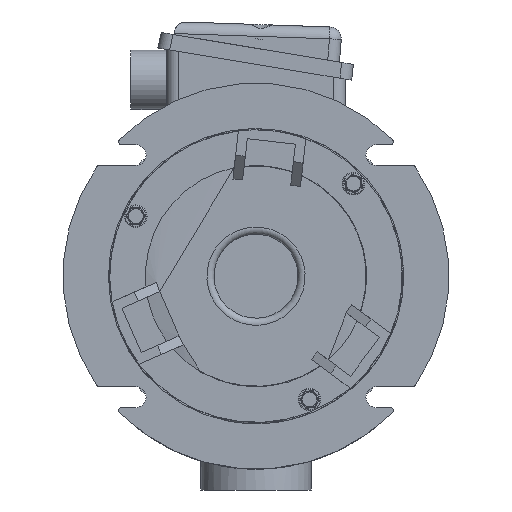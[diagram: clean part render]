
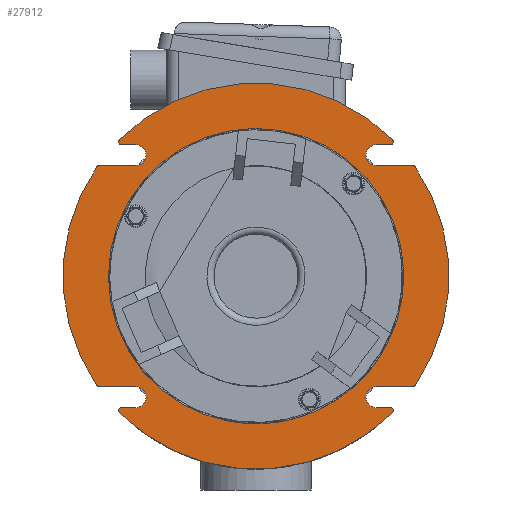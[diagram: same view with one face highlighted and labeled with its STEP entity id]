
A CAD part, front view. The second image highlights one B-rep face of the part: STEP entity #27912.
In plain terms, the highlighted planar face has unit normal (0, -1, 0).
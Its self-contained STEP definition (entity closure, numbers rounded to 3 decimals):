
#1213=FACE_BOUND('',#4818,.T.);
#1870=PLANE('',#30342);
#3187=FACE_OUTER_BOUND('',#4817,.T.);
#4817=EDGE_LOOP('',(#23377,#23378,#23379,#23380,#23381,#23382,#23383,#23384,
#23385,#23386,#23387,#23388,#23389,#23390,#23391,#23392,#23393,#23394,#23395,
#23396,#23397,#23398,#23399,#23400));
#4818=EDGE_LOOP('',(#23401,#23402));
#6748=LINE('',#56075,#8767);
#6751=LINE('',#56085,#8770);
#6752=LINE('',#56089,#8771);
#6753=LINE('',#56097,#8772);
#6754=LINE('',#56101,#8773);
#6755=LINE('',#56109,#8774);
#6756=LINE('',#56113,#8775);
#6757=LINE('',#56121,#8776);
#8767=VECTOR('',#36666,1.);
#8770=VECTOR('',#36675,1.);
#8771=VECTOR('',#36678,1.);
#8772=VECTOR('',#36685,1.);
#8773=VECTOR('',#36688,1.);
#8774=VECTOR('',#36695,1.);
#8775=VECTOR('',#36698,1.);
#8776=VECTOR('',#36705,1.);
#10136=CIRCLE('',#30340,0.1);
#10137=CIRCLE('',#30343,6.5);
#10138=CIRCLE('',#30344,0.1);
#10139=CIRCLE('',#30345,0.35);
#10140=CIRCLE('',#30346,0.1);
#10141=CIRCLE('',#30347,6.5);
#10142=CIRCLE('',#30348,0.1);
#10143=CIRCLE('',#30349,0.35);
#10144=CIRCLE('',#30350,0.1);
#10145=CIRCLE('',#30351,6.5);
#10146=CIRCLE('',#30352,0.1);
#10147=CIRCLE('',#30353,0.35);
#10148=CIRCLE('',#30354,0.1);
#10149=CIRCLE('',#30355,6.5);
#10150=CIRCLE('',#30356,0.1);
#10151=CIRCLE('',#30357,0.35);
#10152=CIRCLE('',#30358,4.97);
#10153=CIRCLE('',#30359,4.97);
#12519=VERTEX_POINT('',#56068);
#12520=VERTEX_POINT('',#56070);
#12521=VERTEX_POINT('',#56074);
#12523=VERTEX_POINT('',#56080);
#12524=VERTEX_POINT('',#56082);
#12525=VERTEX_POINT('',#56084);
#12526=VERTEX_POINT('',#56086);
#12527=VERTEX_POINT('',#56088);
#12528=VERTEX_POINT('',#56090);
#12529=VERTEX_POINT('',#56092);
#12530=VERTEX_POINT('',#56094);
#12531=VERTEX_POINT('',#56096);
#12532=VERTEX_POINT('',#56098);
#12533=VERTEX_POINT('',#56100);
#12534=VERTEX_POINT('',#56102);
#12535=VERTEX_POINT('',#56104);
#12536=VERTEX_POINT('',#56106);
#12537=VERTEX_POINT('',#56108);
#12538=VERTEX_POINT('',#56110);
#12539=VERTEX_POINT('',#56112);
#12540=VERTEX_POINT('',#56114);
#12541=VERTEX_POINT('',#56116);
#12542=VERTEX_POINT('',#56118);
#12543=VERTEX_POINT('',#56120);
#12544=VERTEX_POINT('',#56123);
#12545=VERTEX_POINT('',#56124);
#16240=EDGE_CURVE('',#12519,#12520,#10136,.T.);
#16242=EDGE_CURVE('',#12521,#12520,#6748,.T.);
#16245=EDGE_CURVE('',#12519,#12523,#10137,.T.);
#16246=EDGE_CURVE('',#12524,#12523,#10138,.T.);
#16247=EDGE_CURVE('',#12524,#12525,#6751,.T.);
#16248=EDGE_CURVE('',#12526,#12525,#10139,.T.);
#16249=EDGE_CURVE('',#12526,#12527,#6752,.T.);
#16250=EDGE_CURVE('',#12528,#12527,#10140,.T.);
#16251=EDGE_CURVE('',#12528,#12529,#10141,.T.);
#16252=EDGE_CURVE('',#12530,#12529,#10142,.T.);
#16253=EDGE_CURVE('',#12530,#12531,#6753,.T.);
#16254=EDGE_CURVE('',#12532,#12531,#10143,.T.);
#16255=EDGE_CURVE('',#12532,#12533,#6754,.T.);
#16256=EDGE_CURVE('',#12534,#12533,#10144,.T.);
#16257=EDGE_CURVE('',#12534,#12535,#10145,.T.);
#16258=EDGE_CURVE('',#12536,#12535,#10146,.T.);
#16259=EDGE_CURVE('',#12536,#12537,#6755,.T.);
#16260=EDGE_CURVE('',#12538,#12537,#10147,.T.);
#16261=EDGE_CURVE('',#12538,#12539,#6756,.T.);
#16262=EDGE_CURVE('',#12540,#12539,#10148,.T.);
#16263=EDGE_CURVE('',#12540,#12541,#10149,.T.);
#16264=EDGE_CURVE('',#12542,#12541,#10150,.T.);
#16265=EDGE_CURVE('',#12542,#12543,#6757,.T.);
#16266=EDGE_CURVE('',#12521,#12543,#10151,.T.);
#16267=EDGE_CURVE('',#12544,#12545,#10152,.T.);
#16268=EDGE_CURVE('',#12545,#12544,#10153,.T.);
#23377=ORIENTED_EDGE('',*,*,#16240,.F.);
#23378=ORIENTED_EDGE('',*,*,#16245,.T.);
#23379=ORIENTED_EDGE('',*,*,#16246,.F.);
#23380=ORIENTED_EDGE('',*,*,#16247,.T.);
#23381=ORIENTED_EDGE('',*,*,#16248,.F.);
#23382=ORIENTED_EDGE('',*,*,#16249,.T.);
#23383=ORIENTED_EDGE('',*,*,#16250,.F.);
#23384=ORIENTED_EDGE('',*,*,#16251,.T.);
#23385=ORIENTED_EDGE('',*,*,#16252,.F.);
#23386=ORIENTED_EDGE('',*,*,#16253,.T.);
#23387=ORIENTED_EDGE('',*,*,#16254,.F.);
#23388=ORIENTED_EDGE('',*,*,#16255,.T.);
#23389=ORIENTED_EDGE('',*,*,#16256,.F.);
#23390=ORIENTED_EDGE('',*,*,#16257,.T.);
#23391=ORIENTED_EDGE('',*,*,#16258,.F.);
#23392=ORIENTED_EDGE('',*,*,#16259,.T.);
#23393=ORIENTED_EDGE('',*,*,#16260,.F.);
#23394=ORIENTED_EDGE('',*,*,#16261,.T.);
#23395=ORIENTED_EDGE('',*,*,#16262,.F.);
#23396=ORIENTED_EDGE('',*,*,#16263,.T.);
#23397=ORIENTED_EDGE('',*,*,#16264,.F.);
#23398=ORIENTED_EDGE('',*,*,#16265,.T.);
#23399=ORIENTED_EDGE('',*,*,#16266,.F.);
#23400=ORIENTED_EDGE('',*,*,#16242,.T.);
#23401=ORIENTED_EDGE('',*,*,#16267,.F.);
#23402=ORIENTED_EDGE('',*,*,#16268,.F.);
#27912=ADVANCED_FACE('',(#3187,#1213),#1870,.T.);
#30340=AXIS2_PLACEMENT_3D('',#56071,#36661,#36662);
#30342=AXIS2_PLACEMENT_3D('',#56079,#36669,#36670);
#30343=AXIS2_PLACEMENT_3D('',#56081,#36671,#36672);
#30344=AXIS2_PLACEMENT_3D('',#56083,#36673,#36674);
#30345=AXIS2_PLACEMENT_3D('',#56087,#36676,#36677);
#30346=AXIS2_PLACEMENT_3D('',#56091,#36679,#36680);
#30347=AXIS2_PLACEMENT_3D('',#56093,#36681,#36682);
#30348=AXIS2_PLACEMENT_3D('',#56095,#36683,#36684);
#30349=AXIS2_PLACEMENT_3D('',#56099,#36686,#36687);
#30350=AXIS2_PLACEMENT_3D('',#56103,#36689,#36690);
#30351=AXIS2_PLACEMENT_3D('',#56105,#36691,#36692);
#30352=AXIS2_PLACEMENT_3D('',#56107,#36693,#36694);
#30353=AXIS2_PLACEMENT_3D('',#56111,#36696,#36697);
#30354=AXIS2_PLACEMENT_3D('',#56115,#36699,#36700);
#30355=AXIS2_PLACEMENT_3D('',#56117,#36701,#36702);
#30356=AXIS2_PLACEMENT_3D('',#56119,#36703,#36704);
#30357=AXIS2_PLACEMENT_3D('',#56122,#36706,#36707);
#30358=AXIS2_PLACEMENT_3D('',#56125,#36708,#36709);
#30359=AXIS2_PLACEMENT_3D('',#56126,#36710,#36711);
#36661=DIRECTION('center_axis',(0.,1.,0.));
#36662=DIRECTION('ref_axis',(0.466,0.,-0.885));
#36666=DIRECTION('',(1.,0.,0.));
#36669=DIRECTION('center_axis',(0.,-1.,0.));
#36670=DIRECTION('ref_axis',(0.,0.,-1.));
#36671=DIRECTION('center_axis',(0.,-1.,0.));
#36672=DIRECTION('ref_axis',(1.,0.,0.));
#36673=DIRECTION('center_axis',(0.,1.,0.));
#36674=DIRECTION('ref_axis',(0.466,0.,0.885));
#36675=DIRECTION('',(-1.,0.,0.));
#36676=DIRECTION('center_axis',(0.,-1.,0.));
#36677=DIRECTION('ref_axis',(-0.707,0.,0.707));
#36678=DIRECTION('',(1.,0.,0.));
#36679=DIRECTION('center_axis',(0.,1.,0.));
#36680=DIRECTION('ref_axis',(0.924,0.,-0.383));
#36681=DIRECTION('center_axis',(0.,-1.,0.));
#36682=DIRECTION('ref_axis',(1.,0.,0.));
#36683=DIRECTION('center_axis',(0.,1.,0.));
#36684=DIRECTION('ref_axis',(-0.924,0.,-0.383));
#36685=DIRECTION('',(1.,0.,0.));
#36686=DIRECTION('center_axis',(0.,-1.,0.));
#36687=DIRECTION('ref_axis',(0.707,0.,-0.707));
#36688=DIRECTION('',(-1.,0.,0.));
#36689=DIRECTION('center_axis',(0.,1.,0.));
#36690=DIRECTION('ref_axis',(-0.466,0.,0.885));
#36691=DIRECTION('center_axis',(0.,-1.,0.));
#36692=DIRECTION('ref_axis',(1.,0.,0.));
#36693=DIRECTION('center_axis',(0.,1.,0.));
#36694=DIRECTION('ref_axis',(-0.466,0.,-0.885));
#36695=DIRECTION('',(1.,0.,0.));
#36696=DIRECTION('center_axis',(0.,-1.,0.));
#36697=DIRECTION('ref_axis',(0.707,0.,-0.707));
#36698=DIRECTION('',(-1.,0.,0.));
#36699=DIRECTION('center_axis',(0.,1.,0.));
#36700=DIRECTION('ref_axis',(-0.924,0.,0.383));
#36701=DIRECTION('center_axis',(0.,-1.,0.));
#36702=DIRECTION('ref_axis',(1.,0.,0.));
#36703=DIRECTION('center_axis',(0.,1.,0.));
#36704=DIRECTION('ref_axis',(0.924,0.,0.383));
#36705=DIRECTION('',(-1.,0.,0.));
#36706=DIRECTION('center_axis',(0.,-1.,0.));
#36707=DIRECTION('ref_axis',(-0.707,0.,0.707));
#36708=DIRECTION('center_axis',(0.,-1.,0.));
#36709=DIRECTION('ref_axis',(1.,0.,0.));
#36710=DIRECTION('center_axis',(0.,-1.,0.));
#36711=DIRECTION('ref_axis',(1.,0.,0.));
#56068=CARTESIAN_POINT('',(5.357,0.223,-3.682));
#56070=CARTESIAN_POINT('',(5.274,0.223,-3.725));
#56071=CARTESIAN_POINT('Origin',(5.274,0.223,-3.625));
#56074=CARTESIAN_POINT('',(4.05,0.223,-3.725));
#56075=CARTESIAN_POINT('',(6.463,0.223,-3.725));
#56079=CARTESIAN_POINT('Origin',(4.97,0.223,0.));
#56080=CARTESIAN_POINT('',(5.357,0.223,3.682));
#56081=CARTESIAN_POINT('Origin',(0.,0.223,0.));
#56082=CARTESIAN_POINT('',(5.274,0.223,3.725));
#56083=CARTESIAN_POINT('Origin',(5.274,0.223,3.625));
#56084=CARTESIAN_POINT('',(4.05,0.223,3.725));
#56085=CARTESIAN_POINT('',(6.463,0.223,3.725));
#56086=CARTESIAN_POINT('',(4.05,0.223,4.425));
#56087=CARTESIAN_POINT('Origin',(4.05,0.223,4.075));
#56088=CARTESIAN_POINT('',(4.526,0.223,4.425));
#56089=CARTESIAN_POINT('',(4.335,0.223,4.425));
#56090=CARTESIAN_POINT('',(4.597,0.223,4.596));
#56091=CARTESIAN_POINT('Origin',(4.526,0.223,4.525));
#56092=CARTESIAN_POINT('',(-4.597,0.223,4.596));
#56093=CARTESIAN_POINT('Origin',(0.,0.223,0.));
#56094=CARTESIAN_POINT('',(-4.526,0.223,4.425));
#56095=CARTESIAN_POINT('Origin',(-4.526,0.223,4.525));
#56096=CARTESIAN_POINT('',(-4.05,0.223,4.425));
#56097=CARTESIAN_POINT('',(0.635,0.223,4.425));
#56098=CARTESIAN_POINT('',(-4.05,0.223,3.725));
#56099=CARTESIAN_POINT('Origin',(-4.05,0.223,4.075));
#56100=CARTESIAN_POINT('',(-5.274,0.223,3.725));
#56101=CARTESIAN_POINT('',(-1.493,0.223,3.725));
#56102=CARTESIAN_POINT('',(-5.357,0.223,3.682));
#56103=CARTESIAN_POINT('Origin',(-5.274,0.223,3.625));
#56104=CARTESIAN_POINT('',(-5.357,0.223,-3.682));
#56105=CARTESIAN_POINT('Origin',(0.,0.223,0.));
#56106=CARTESIAN_POINT('',(-5.274,0.223,-3.725));
#56107=CARTESIAN_POINT('Origin',(-5.274,0.223,-3.625));
#56108=CARTESIAN_POINT('',(-4.05,0.223,-3.725));
#56109=CARTESIAN_POINT('',(-1.493,0.223,-3.725));
#56110=CARTESIAN_POINT('',(-4.05,0.223,-4.425));
#56111=CARTESIAN_POINT('Origin',(-4.05,0.223,-4.075));
#56112=CARTESIAN_POINT('',(-4.526,0.223,-4.425));
#56113=CARTESIAN_POINT('',(0.635,0.223,-4.425));
#56114=CARTESIAN_POINT('',(-4.597,0.223,-4.596));
#56115=CARTESIAN_POINT('Origin',(-4.526,0.223,-4.525));
#56116=CARTESIAN_POINT('',(4.597,0.223,-4.596));
#56117=CARTESIAN_POINT('Origin',(0.,0.223,0.));
#56118=CARTESIAN_POINT('',(4.526,0.223,-4.425));
#56119=CARTESIAN_POINT('Origin',(4.526,0.223,-4.525));
#56120=CARTESIAN_POINT('',(4.05,0.223,-4.425));
#56121=CARTESIAN_POINT('',(4.335,0.223,-4.425));
#56122=CARTESIAN_POINT('Origin',(4.05,0.223,-4.075));
#56123=CARTESIAN_POINT('',(4.97,0.223,0.));
#56124=CARTESIAN_POINT('',(-4.97,0.223,0.));
#56125=CARTESIAN_POINT('Origin',(0.,0.223,0.));
#56126=CARTESIAN_POINT('Origin',(0.,0.223,0.));
